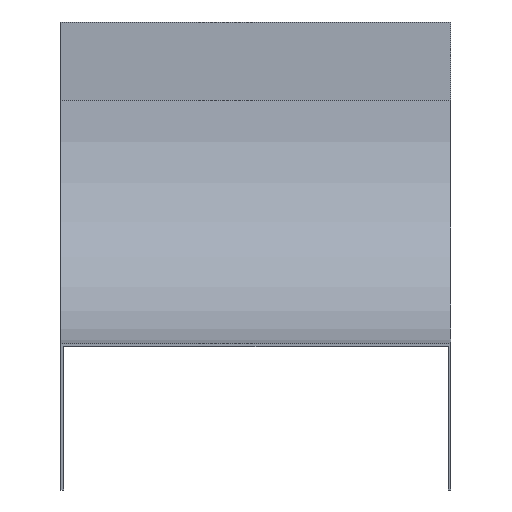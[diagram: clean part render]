
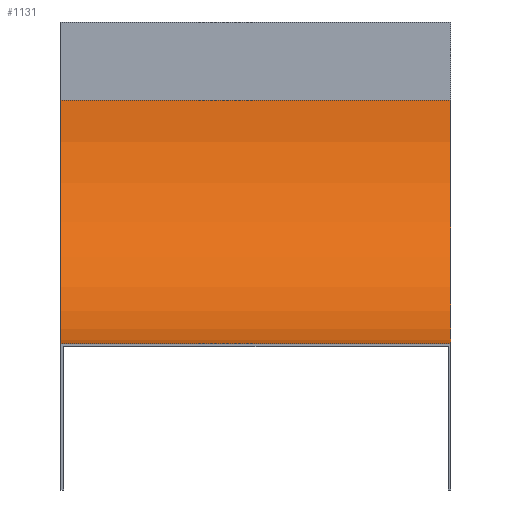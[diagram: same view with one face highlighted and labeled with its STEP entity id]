
A CAD part, front view. The second image highlights one B-rep face of the part: STEP entity #1131.
In plain terms, the highlighted cylindrical face has radius 125 mm (diameter 250 mm), a partial arc.
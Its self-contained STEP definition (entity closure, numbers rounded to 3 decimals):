
#52 = VECTOR ( 'NONE', #1065, 1000. ) ;
#56 = CARTESIAN_POINT ( 'NONE',  ( 100., -125., -40. ) ) ;
#136 = FACE_OUTER_BOUND ( 'NONE', #622, .T. ) ;
#166 = CARTESIAN_POINT ( 'NONE',  ( -100., -125., -165. ) ) ;
#255 = DIRECTION ( 'NONE',  ( -1., 0., 0. ) ) ;
#259 = ORIENTED_EDGE ( 'NONE', *, *, #1360, .F. ) ;
#270 = VECTOR ( 'NONE', #997, 1000. ) ;
#305 = ORIENTED_EDGE ( 'NONE', *, *, #983, .F. ) ;
#450 = DIRECTION ( 'NONE',  ( -1., 0., 0. ) ) ;
#467 = LINE ( 'NONE', #1108, #270 ) ;
#503 = AXIS2_PLACEMENT_3D ( 'NONE', #1399, #255, #1425 ) ;
#550 = CARTESIAN_POINT ( 'NONE',  ( 100., 0., -40. ) ) ;
#556 = CARTESIAN_POINT ( 'NONE',  ( -100., -125., -40. ) ) ;
#622 = EDGE_LOOP ( 'NONE', ( #1375, #305, #259, #1240 ) ) ;
#695 = CARTESIAN_POINT ( 'NONE',  ( 100., 0., -40. ) ) ;
#734 = VERTEX_POINT ( 'NONE', #882 ) ;
#866 = VERTEX_POINT ( 'NONE', #695 ) ;
#881 = CARTESIAN_POINT ( 'NONE',  ( 100., -125., -165. ) ) ;
#882 = CARTESIAN_POINT ( 'NONE',  ( -100., 0., -40. ) ) ;
#959 = EDGE_CURVE ( 'NONE', #866, #734, #1193, .T. ) ;
#980 = CIRCLE ( 'NONE', #1307, 125. ) ;
#983 = EDGE_CURVE ( 'NONE', #1121, #1622, #467, .T. ) ;
#997 = DIRECTION ( 'NONE',  ( -1., 0., 0. ) ) ;
#1065 = DIRECTION ( 'NONE',  ( -1., 0., 0. ) ) ;
#1091 = CIRCLE ( 'NONE', #1312, 125. ) ;
#1108 = CARTESIAN_POINT ( 'NONE',  ( 100., -125., -165. ) ) ;
#1121 = VERTEX_POINT ( 'NONE', #881 ) ;
#1131 = ADVANCED_FACE ( 'NONE', ( #136 ), #1529, .F. ) ;
#1193 = LINE ( 'NONE', #550, #52 ) ;
#1239 = DIRECTION ( 'NONE',  ( 0., 0., 1. ) ) ;
#1240 = ORIENTED_EDGE ( 'NONE', *, *, #959, .T. ) ;
#1307 = AXIS2_PLACEMENT_3D ( 'NONE', #56, #450, #1239 ) ;
#1312 = AXIS2_PLACEMENT_3D ( 'NONE', #556, #1585, #1593 ) ;
#1316 = EDGE_CURVE ( 'NONE', #734, #1622, #1091, .T. ) ;
#1360 = EDGE_CURVE ( 'NONE', #866, #1121, #980, .T. ) ;
#1375 = ORIENTED_EDGE ( 'NONE', *, *, #1316, .T. ) ;
#1399 = CARTESIAN_POINT ( 'NONE',  ( 100., -125., -40. ) ) ;
#1425 = DIRECTION ( 'NONE',  ( 0., 0., 1. ) ) ;
#1529 = CYLINDRICAL_SURFACE ( 'NONE', #503, 125. ) ;
#1585 = DIRECTION ( 'NONE',  ( -1., 0., 0. ) ) ;
#1593 = DIRECTION ( 'NONE',  ( 0., 0., 1. ) ) ;
#1622 = VERTEX_POINT ( 'NONE', #166 ) ;
